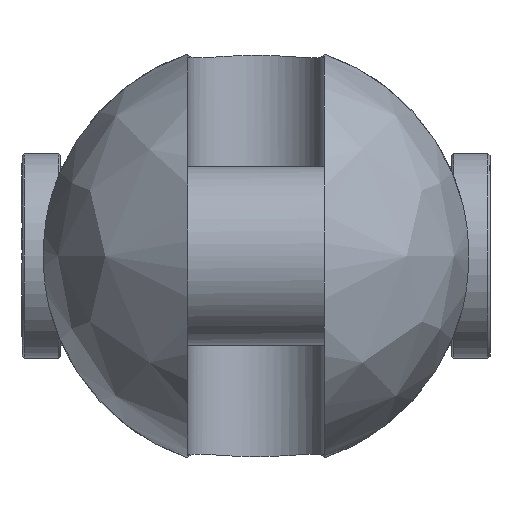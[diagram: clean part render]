
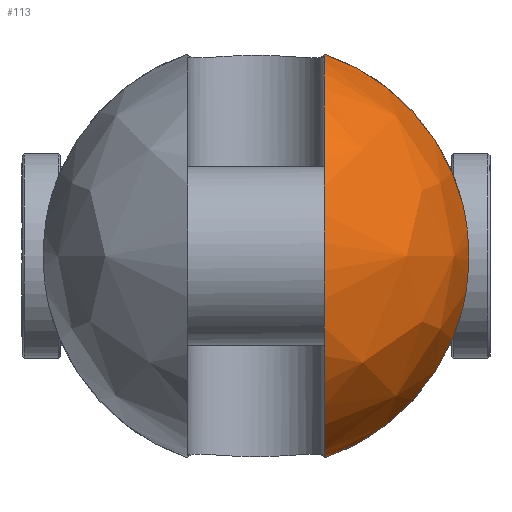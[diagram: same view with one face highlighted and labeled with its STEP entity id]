
A CAD part, left-side view. The second image highlights one B-rep face of the part: STEP entity #113.
In plain terms, the highlighted free-form (B-spline) face has degree [2, 2] with [9, 5] control points.
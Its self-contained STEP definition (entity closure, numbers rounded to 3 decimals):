
#113=ADVANCED_FACE('',(#200),#1527,.T.);
#200=FACE_OUTER_BOUND('',#299,.T.);
#299=EDGE_LOOP('',(#741,#742,#743,#744));
#741=ORIENTED_EDGE('',*,*,#998,.T.);
#742=ORIENTED_EDGE('',*,*,#995,.F.);
#743=ORIENTED_EDGE('',*,*,#1015,.T.);
#744=ORIENTED_EDGE('',*,*,#987,.F.);
#987=EDGE_CURVE('',#1418,#1419,#1249,.T.);
#995=EDGE_CURVE('',#1426,#1427,#1250,.T.);
#998=EDGE_CURVE('',#1418,#1427,#1252,.T.);
#1015=EDGE_CURVE('',#1426,#1419,#1123,.T.);
#1123=B_SPLINE_CURVE_WITH_KNOTS('',3,(#3616,#3617,#3618,#3619,#3620,#3621,
#3622,#3623,#3624,#3625,#3626,#3627,#3628,#3629),.UNSPECIFIED.,.F.,.F.,
(4,2,2,2,2,2,4),(0.,1.423,6.959,12.495,
18.031,23.567,24.99),.UNSPECIFIED.);
#1249=(
BOUNDED_CURVE()
B_SPLINE_CURVE(2,(#3466,#3467,#3468),.UNSPECIFIED.,.F.,.F.)
B_SPLINE_CURVE_WITH_KNOTS((3,3),(0.,50.264),.UNSPECIFIED.)
CURVE()
GEOMETRIC_REPRESENTATION_ITEM()
RATIONAL_B_SPLINE_CURVE((1.,0.876,1.))
REPRESENTATION_ITEM('')
);
#1250=(
BOUNDED_CURVE()
B_SPLINE_CURVE(2,(#3523,#3524,#3525),.UNSPECIFIED.,.F.,.F.)
B_SPLINE_CURVE_WITH_KNOTS((3,3),(0.,50.264),.UNSPECIFIED.)
CURVE()
GEOMETRIC_REPRESENTATION_ITEM()
RATIONAL_B_SPLINE_CURVE((1.,0.876,1.))
REPRESENTATION_ITEM('')
);
#1252=(
BOUNDED_CURVE()
B_SPLINE_CURVE(2,(#3531,#3532,#3533,#3534,#3535),.UNSPECIFIED.,.F.,.F.)
B_SPLINE_CURVE_WITH_KNOTS((3,2,3),(-148.82,-74.41,
0.),.UNSPECIFIED.)
CURVE()
GEOMETRIC_REPRESENTATION_ITEM()
RATIONAL_B_SPLINE_CURVE((1.,0.707,1.,0.707,1.))
REPRESENTATION_ITEM('')
);
#1418=VERTEX_POINT('',#3274);
#1419=VERTEX_POINT('',#3275);
#1426=VERTEX_POINT('',#3282);
#1427=VERTEX_POINT('',#3283);
#1527=(
BOUNDED_SURFACE()
B_SPLINE_SURFACE(2,2,((#3146,#3147,#3148,#3149,#3150),(#3151,#3152,#3153,
#3154,#3155),(#3156,#3157,#3158,#3159,#3160),(#3161,#3162,#3163,#3164,#3165),
(#3166,#3167,#3168,#3169,#3170),(#3171,#3172,#3173,#3174,#3175),(#3176,
#3177,#3178,#3179,#3180),(#3181,#3182,#3183,#3184,#3185),(#3186,#3187,#3188,
#3189,#3190)),.UNSPECIFIED.,.T.,.F.,.F.)
B_SPLINE_SURFACE_WITH_KNOTS((3,2,2,2,3),(3,2,3),(0.,78.54,157.08,
235.619,314.159),(0.,78.54,157.08),
 .UNSPECIFIED.)
GEOMETRIC_REPRESENTATION_ITEM()
RATIONAL_B_SPLINE_SURFACE(((1.,0.707,1.,0.707,1.),
(0.707,0.5,0.707,0.5,0.707),(1.,0.707,
1.,0.707,1.),(0.707,0.5,0.707,0.5,0.707),
(1.,0.707,1.,0.707,1.),(0.707,0.5,0.707,
0.5,0.707),(1.,0.707,1.,0.707,1.),(0.707,
0.5,0.707,0.5,0.707),(1.,0.707,1.,0.707,
1.)))
REPRESENTATION_ITEM('')
SURFACE()
);
#3146=CARTESIAN_POINT('',(-72.,0.,0.));
#3147=CARTESIAN_POINT('',(-72.,50.,0.));
#3148=CARTESIAN_POINT('',(-22.,50.,0.));
#3149=CARTESIAN_POINT('',(28.,50.,0.));
#3150=CARTESIAN_POINT('',(28.,0.,0.));
#3151=CARTESIAN_POINT('',(-72.,0.,0.));
#3152=CARTESIAN_POINT('',(-72.,50.,50.));
#3153=CARTESIAN_POINT('',(-22.,50.,50.));
#3154=CARTESIAN_POINT('',(28.,50.,50.));
#3155=CARTESIAN_POINT('',(28.,0.,0.));
#3156=CARTESIAN_POINT('',(-72.,0.,0.));
#3157=CARTESIAN_POINT('',(-72.,0.,50.));
#3158=CARTESIAN_POINT('',(-22.,0.,50.));
#3159=CARTESIAN_POINT('',(28.,0.,50.));
#3160=CARTESIAN_POINT('',(28.,0.,0.));
#3161=CARTESIAN_POINT('',(-72.,0.,0.));
#3162=CARTESIAN_POINT('',(-72.,-50.,50.));
#3163=CARTESIAN_POINT('',(-22.,-50.,50.));
#3164=CARTESIAN_POINT('',(28.,-50.,50.));
#3165=CARTESIAN_POINT('',(28.,0.,0.));
#3166=CARTESIAN_POINT('',(-72.,0.,0.));
#3167=CARTESIAN_POINT('',(-72.,-50.,0.));
#3168=CARTESIAN_POINT('',(-22.,-50.,0.));
#3169=CARTESIAN_POINT('',(28.,-50.,0.));
#3170=CARTESIAN_POINT('',(28.,0.,0.));
#3171=CARTESIAN_POINT('',(-72.,0.,0.));
#3172=CARTESIAN_POINT('',(-72.,-50.,-50.));
#3173=CARTESIAN_POINT('',(-22.,-50.,-50.));
#3174=CARTESIAN_POINT('',(28.,-50.,-50.));
#3175=CARTESIAN_POINT('',(28.,0.,0.));
#3176=CARTESIAN_POINT('',(-72.,0.,0.));
#3177=CARTESIAN_POINT('',(-72.,0.,-50.));
#3178=CARTESIAN_POINT('',(-22.,0.,-50.));
#3179=CARTESIAN_POINT('',(28.,0.,-50.));
#3180=CARTESIAN_POINT('',(28.,0.,0.));
#3181=CARTESIAN_POINT('',(-72.,0.,0.));
#3182=CARTESIAN_POINT('',(-72.,50.,-50.));
#3183=CARTESIAN_POINT('',(-22.,50.,-50.));
#3184=CARTESIAN_POINT('',(28.,50.,-50.));
#3185=CARTESIAN_POINT('',(28.,0.,0.));
#3186=CARTESIAN_POINT('',(-72.,0.,0.));
#3187=CARTESIAN_POINT('',(-72.,50.,0.));
#3188=CARTESIAN_POINT('',(-22.,50.,0.));
#3189=CARTESIAN_POINT('',(28.,50.,0.));
#3190=CARTESIAN_POINT('',(28.,0.,0.));
#3274=CARTESIAN_POINT('',(-22.,-16.,47.371));
#3275=CARTESIAN_POINT('',(-22.,-48.57,11.874));
#3282=CARTESIAN_POINT('',(-22.,-48.57,-11.874));
#3283=CARTESIAN_POINT('',(-22.,-16.,-47.371));
#3466=CARTESIAN_POINT('',(-22.,-16.,47.371));
#3467=CARTESIAN_POINT('',(-22.,-42.042,38.575));
#3468=CARTESIAN_POINT('',(-22.,-48.57,11.874));
#3523=CARTESIAN_POINT('',(-22.,-48.57,-11.874));
#3524=CARTESIAN_POINT('',(-22.,-42.042,-38.575));
#3525=CARTESIAN_POINT('',(-22.,-16.,-47.371));
#3531=CARTESIAN_POINT('',(-22.,-16.,47.371));
#3532=CARTESIAN_POINT('',(-69.371,-16.,47.371));
#3533=CARTESIAN_POINT('',(-69.371,-16.,0.));
#3534=CARTESIAN_POINT('',(-69.371,-16.,-47.371));
#3535=CARTESIAN_POINT('',(-22.,-16.,-47.371));
#3616=CARTESIAN_POINT('',(-22.,-48.57,-11.874));
#3617=CARTESIAN_POINT('',(-22.223,-48.671,-11.461));
#3618=CARTESIAN_POINT('',(-22.435,-48.766,-11.041));
#3619=CARTESIAN_POINT('',(-23.414,-49.207,-8.953));
#3620=CARTESIAN_POINT('',(-24.013,-49.473,-7.192));
#3621=CARTESIAN_POINT('',(-24.807,-49.825,-3.606));
#3622=CARTESIAN_POINT('',(-25.,-49.91,-1.781));
#3623=CARTESIAN_POINT('',(-25.,-49.91,1.781));
#3624=CARTESIAN_POINT('',(-24.807,-49.825,3.606));
#3625=CARTESIAN_POINT('',(-24.013,-49.473,7.192));
#3626=CARTESIAN_POINT('',(-23.414,-49.207,8.953));
#3627=CARTESIAN_POINT('',(-22.435,-48.766,11.041));
#3628=CARTESIAN_POINT('',(-22.223,-48.671,11.461));
#3629=CARTESIAN_POINT('',(-22.,-48.57,11.874));
